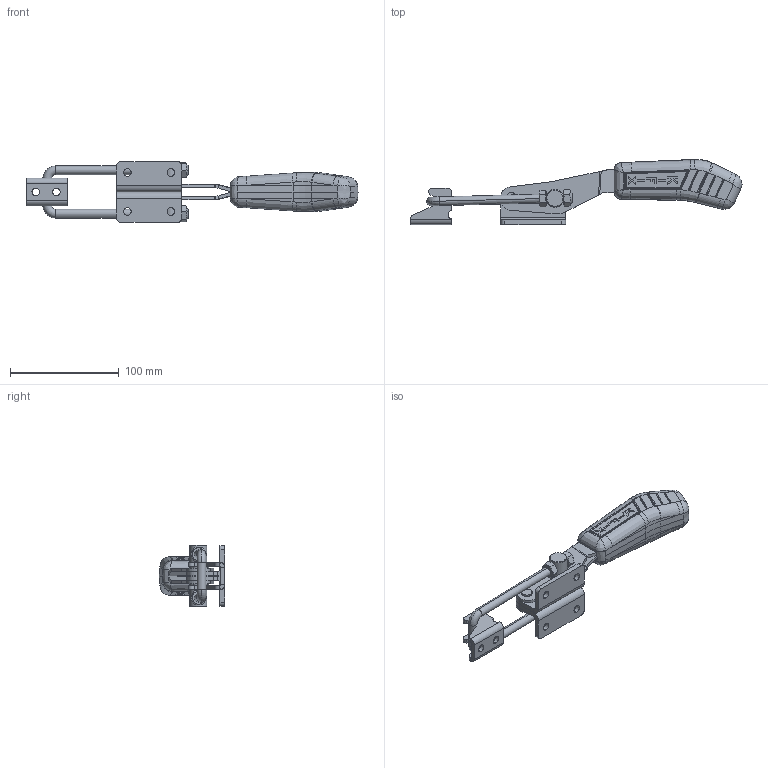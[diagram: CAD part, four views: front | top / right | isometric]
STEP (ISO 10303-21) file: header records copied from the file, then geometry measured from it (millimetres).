
FILE_DESCRIPTION (( 'STEP AP203' ), '1' );
FILE_NAME ('KF-943 D.STEP', '2014-08-21T13:41:13', ( 'Ricardo' ), ( '' ), 'SwSTEP 2.0', 'SolidWorks 2013', '' );
FILE_SCHEMA (( 'CONFIG_CONTROL_DESIGN' ));
Length unit declared in the file: millimetre
Products named in the file (12): KF-943 D; 01.10058_Esquerda; 16.20101; 03.20006; 15.10030; 11.50017; 11.50002; 02.12006_Direita; 07.60003; 02.12006_Esquerda; 06.50049; 01.10058_Direita
Assembly tree (13 placements, depth 2):
  KF-943 D
    02.12006_Direita
    02.12006_Esquerda
    01.10058_Direita
    01.10058_Esquerda
    16.20101
    03.20006
    15.10030
    11.50017  x2
    11.50002  x2
    07.60003
    06.50049
Bounding box: 305.72 x 60.02 x 56.5 mm (x, y, z)
Volume: 184184.6 mm3; surface area: 72285.9 mm2
Topology: 13 solids, 13 shells, 671 faces, 1701 edges, 1060 vertices
Faces by surface type: plane 231, cylinder 192, bspline 153, sphere 48, cone 38, torus 9
Entity records: 24354 total; most frequent: CARTESIAN_POINT 9278, ORIENTED_EDGE 3194, DIRECTION 2400, EDGE_CURVE 1597, VERTEX_POINT 1000, AXIS2_PLACEMENT_3D 932, EDGE_LOOP 691, FACE_OUTER_BOUND 637
